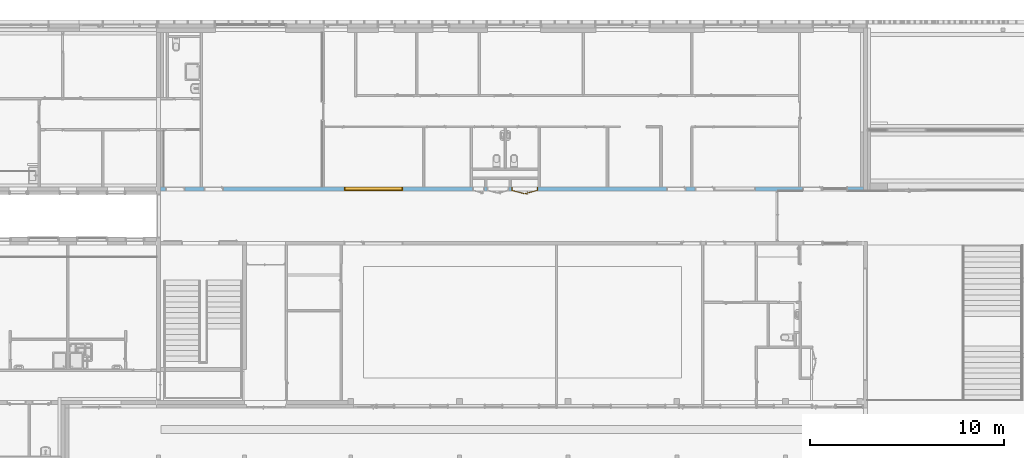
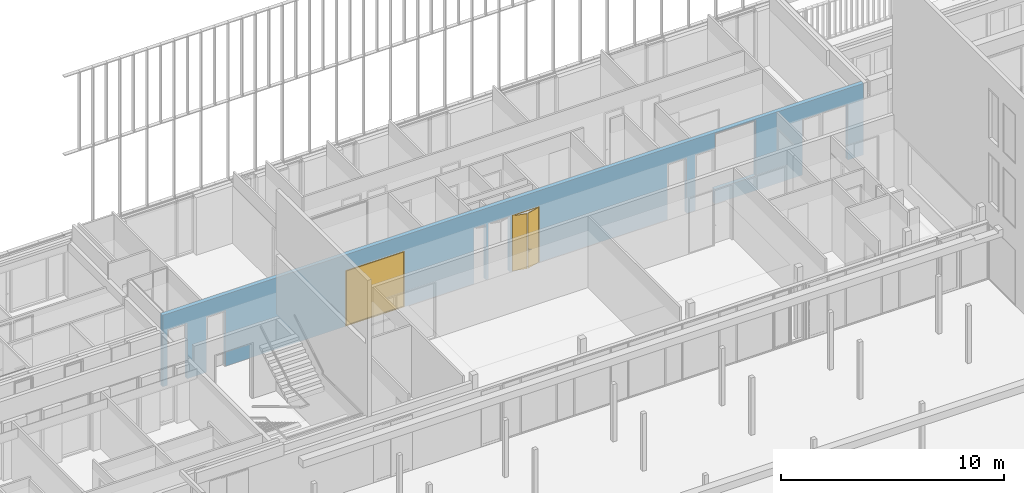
# One storey, part 212 of 240: 1 door, 1 window, 11 openings, plus 1 element that does not belong to this part.
"""IFC2X3 building model written with IfcOpenShell, lengths in centimetres."""

from ifc_helpers import new_model, entity, si_unit, converted_unit, derived_unit, direction, frame, frame_2d, origin, place, context, subcontext, project, spatial, polyline, rectangle, extrude, clip, bounded_halfspace, faceted_brep, source, transform, mapped, material, material_list, layer, layer_set, layer_usage, type_object, type_shapes, element, fill, save


model = new_model("IFC2X3")

# Units and contexts
model_context = context("Model", 3, precision=0.001, world=origin(), true_north=direction((6.12303176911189e-17, 1.0)))
body_context = subcontext(model_context, "Body", "Model", "MODEL_VIEW")
ifc_project = project(units=[si_unit("LENGTHUNIT", "METRE", prefix="CENTI"), si_unit("AREAUNIT", "SQUARE_METRE"), si_unit("VOLUMEUNIT", "CUBIC_METRE"), converted_unit("PLANEANGLEUNIT", "DEGREE", entity("IfcRatioMeasure", 0.0174532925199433), si_unit("PLANEANGLEUNIT", "RADIAN"), dimensions=[0, 0, 0, 0, 0, 0, 0]), si_unit("MASSUNIT", "GRAM", prefix="KILO"), derived_unit("MASSDENSITYUNIT", [(si_unit("MASSUNIT", "GRAM", prefix="KILO"), 1), (si_unit("LENGTHUNIT", "METRE"), -3)]), si_unit("TIMEUNIT", "SECOND"), si_unit("FREQUENCYUNIT", "HERTZ"), si_unit("THERMODYNAMICTEMPERATUREUNIT", "DEGREE_CELSIUS"), derived_unit("THERMALTRANSMITTANCEUNIT", [(si_unit("MASSUNIT", "GRAM", prefix="KILO"), 1), (si_unit("THERMODYNAMICTEMPERATUREUNIT", "KELVIN"), -1), (si_unit("TIMEUNIT", "SECOND"), -3)]), derived_unit("VOLUMETRICFLOWRATEUNIT", [(si_unit("LENGTHUNIT", "METRE"), 3), (si_unit("TIMEUNIT", "SECOND"), -1)]), si_unit("ELECTRICCURRENTUNIT", "AMPERE"), si_unit("ELECTRICVOLTAGEUNIT", "VOLT"), si_unit("POWERUNIT", "WATT"), si_unit("FORCEUNIT", "NEWTON", prefix="KILO"), si_unit("ILLUMINANCEUNIT", "LUX"), si_unit("LUMINOUSFLUXUNIT", "LUMEN"), si_unit("LUMINOUSINTENSITYUNIT", "CANDELA"), derived_unit("USERDEFINED", [(si_unit("MASSUNIT", "GRAM", prefix="KILO"), -1), (si_unit("LENGTHUNIT", "METRE"), -2), (si_unit("TIMEUNIT", "SECOND"), 3), (si_unit("LUMINOUSFLUXUNIT", "LUMEN"), 1)]), derived_unit("LINEARVELOCITYUNIT", [(si_unit("LENGTHUNIT", "METRE"), 1), (si_unit("TIMEUNIT", "SECOND"), -1)]), si_unit("PRESSUREUNIT", "PASCAL"), derived_unit("USERDEFINED", [(si_unit("LENGTHUNIT", "METRE"), -2), (si_unit("MASSUNIT", "GRAM", prefix="KILO"), 1), (si_unit("TIMEUNIT", "SECOND"), -2)])], contexts=[model_context])

# Site, building, storey
site_placement = place(None, frame((-2781.94577612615, 7442.24238424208, 0.0)))
site = spatial("IfcSite", under=ifc_project, at=site_placement, Name="Default", CompositionType="ELEMENT")
building_placement = place(site_placement, origin())
building = spatial("IfcBuilding", under=site, at=building_placement, CompositionType="ELEMENT")
storey_placement = place(building_placement, origin())
storey = spatial("IfcBuildingStorey", under=building, at=storey_placement, Name="N00 - COO", CompositionType="ELEMENT", Elevation=0.0)

# Wall, openings, window, door
ifc_material_1 = material(Name="01 - Maçonnerie")
ifc_layer = layer(ifc_material_1, 20.0)
ifc_layer_set = layer_set([ifc_layer], Name="Mur de base:04 - Structure - béton - 20cm")
ifc_layer_usage = layer_usage(ifc_layer_set, "AXIS2", "NEGATIVE", 10.0)
wall_type = type_object("IfcWallType", Name="Mur de base:04 - Structure - béton - 20cm", PredefinedType="STANDARD", material=ifc_layer_set)
wall_placement = place(building_placement, frame((-8409.49987766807, -820.048500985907, 0.0)))
wall = element("IfcWallStandardCase", 1, at=wall_placement, inside=storey, type_object=wall_type, material=ifc_layer_usage, Name="Mur de base:04 - Structure - béton - 20cm", ObjectType="Mur de base:04 - Structure - béton - 20cm", context=body_context, shape_type="Clipping", body=[
    clip(extrude(rectangle(XDim=3621.50000006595, YDim=20.0, at=frame_2d((1810.75000003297, -1.59872115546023e-14), x_axis=(-1.0, 0.0))), origin(), (0.0, 0.0, 1.0), 391.0), bounded_halfspace(frame((0.0, -10.0, 391.0), z_axis=(0.0, 0.0, -1.0), x_axis=(0.0, 1.0, 0.0)), True, frame((0.0, -10.0, 391.0), z_axis=(0.0, 0.0, -1.0), x_axis=(0.0, 1.0, 0.0)), polyline([(0.0, 0.0), (20.0, 0.0), (20.0, 205.0), (20.0, 215.0), (20.0, 833.250000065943), (20.0, 843.250000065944), (20.0, 1351.0), (20.0, 1361.0), (20.0, 1603.69999798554), (20.0, 1671.0), (20.0, 1680.69999798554), (20.0, 1799.69999798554), (20.0, 1946.0), (20.0, 1956.0), (20.0, 2296.0), (20.0, 2306.0), (20.0, 2573.0), (20.0, 2583.0), (20.0, 2733.0), (20.0, 2743.0), (20.0, 3287.0), (20.0, 3297.0), (20.0, 3621.50000006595), (0.0, 3621.50000006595), (0.0, 3182.0), (0.0, 3172.0), (0.0, 0.0)]))),
])
opening_1_placement = place(wall_placement, origin())
element("IfcOpeningElement", 2, at=opening_1_placement, cuts=wall, Name="Mur de base:04 - Structure - béton - 20cm", ObjectType="Opening", context=body_context, shape_type="SweptSolid", body=[
    extrude(rectangle(XDim=306.0, YDim=133.000000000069, at=frame_2d((0.0, 4.33431068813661e-13), x_axis=(1.0, 0.0))), frame((3473.50000006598, -25.24, 153.0), z_axis=(0.0, 1.0, 0.0), x_axis=(0.0, 0.0, 1.0)), (0.0, 0.0, 1.0), 50.48),
])
opening_2_placement = place(wall_placement, frame((225.0, -10.0, 0.0)))
element("IfcOpeningElement", 3, at=opening_2_placement, cuts=wall, Name="Int. Simple:PV (0.93m x 3.00m):1", ObjectType="Opening", context=body_context, shape_type="SweptSolid", body=[
    extrude(rectangle(XDim=304.500000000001, YDim=99.9999999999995, at=frame_2d((152.250000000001, 50.0), x_axis=(1.0, 0.0))), frame((0.0, 0.0, 0.0), z_axis=(0.0, 1.0, 0.0), x_axis=(0.0, 0.0, 1.0)), (0.0, 0.0, 1.0), 20.0),
])
opening_3_placement = place(wall_placement, frame((2608.0, -10.0, 0.0)))
element("IfcOpeningElement", 4, at=opening_3_placement, cuts=wall, Name="Int. Simple:PV (0.93m x 3.00m):1", ObjectType="Opening", context=body_context, shape_type="SweptSolid", body=[
    extrude(rectangle(XDim=304.500000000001, YDim=99.9999999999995, at=frame_2d((152.250000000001, 50.0), x_axis=(1.0, 0.0))), frame((0.0, 0.0, 0.0), z_axis=(0.0, 1.0, 0.0), x_axis=(0.0, 0.0, 1.0)), (0.0, 0.0, 1.0), 20.0),
])
opening_4_placement = place(wall_placement, frame((2753.0, -10.0, 0.0)))
element("IfcOpeningElement", 5, at=opening_4_placement, cuts=wall, Name="Int. Simple:PV (0.93m x 3.00m):1", ObjectType="Opening", context=body_context, shape_type="SweptSolid", body=[
    extrude(rectangle(XDim=304.500000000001, YDim=99.9999999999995, at=frame_2d((152.250000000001, 50.0), x_axis=(1.0, 0.0))), frame((0.0, 0.0, 0.0), z_axis=(0.0, 1.0, 0.0), x_axis=(0.0, 0.0, 1.0)), (0.0, 0.0, 1.0), 20.0),
])
opening_5_placement = place(wall_placement, frame((3307.0, -10.0, 0.0)))
element("IfcOpeningElement", 6, at=opening_5_placement, cuts=wall, Name="Int. Simple:PV (0.93m x 3.00m):1", ObjectType="Opening", context=body_context, shape_type="SweptSolid", body=[
    extrude(rectangle(XDim=304.500000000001, YDim=99.9999999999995, at=frame_2d((152.250000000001, 50.0), x_axis=(1.0, 0.0))), frame((0.0, 0.0, 0.0), z_axis=(0.0, 1.0, 0.0), x_axis=(0.0, 0.0, 1.0)), (0.0, 0.0, 1.0), 20.0),
])
opening_6_placement = place(wall_placement, frame((1944.50000006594, 10.0, 0.0)))
opening_6 = element("IfcOpeningElement", 7, at=opening_6_placement, cuts=wall, Name="Int. Double:PP Placard (1.26m x 2.04m):1", ObjectType="Opening", context=body_context, shape_type="SweptSolid", body=[
    extrude(rectangle(XDim=304.500000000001, YDim=137.0, at=frame_2d((152.250000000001, 68.5), x_axis=(1.0, 0.0))), frame((0.0, 0.0, 0.0), z_axis=(0.0, -1.0, 0.0), x_axis=(0.0, 0.0, 1.0)), (0.0, 0.0, 1.0), 20.0),
])
opening_7_placement = place(wall_placement, frame((1794.50000006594, 10.0, 0.0)))
element("IfcOpeningElement", 8, at=opening_7_placement, cuts=wall, Name="Int. Double:PP Placard (1.05m x 3.00m):1", ObjectType="Opening", context=body_context, shape_type="SweptSolid", body=[
    extrude(rectangle(XDim=304.500000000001, YDim=112.0, at=frame_2d((152.250000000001, 56.0000000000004), x_axis=(1.0, 0.0))), frame((0.0, 0.0, 0.0), z_axis=(0.0, -1.0, 0.0), x_axis=(0.0, 0.0, 1.0)), (0.0, 0.0, 1.0), 20.0),
])
opening_8_placement = place(wall_placement, frame((1669.50000006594, 10.0, 0.0)))
element("IfcOpeningElement", 9, at=opening_8_placement, cuts=wall, Name="Int. Simple:PP Placard (0.55m x 3.00m):1", ObjectType="Opening", context=body_context, shape_type="SweptSolid", body=[
    extrude(rectangle(XDim=304.500000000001, YDim=61.9999999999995, at=frame_2d((152.250000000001, 30.9999999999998), x_axis=(1.0, 0.0))), frame((0.0, 0.0, 0.0), z_axis=(0.0, -1.0, 0.0), x_axis=(0.0, 0.0, 1.0)), (0.0, 0.0, 1.0), 20.0),
])
opening_9_placement = place(wall_placement, frame((945.0, -10.0, 0.0)))
opening_9 = element("IfcOpeningElement", 10, at=opening_9_placement, cuts=wall, Name="châssis intérieur vitré:châssis intérieur vitré (h=306):1", ObjectType="Opening", context=body_context, shape_type="SweptSolid", body=[
    extrude(rectangle(XDim=306.0, YDim=304.999999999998, at=frame_2d((153.0, 152.499999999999), x_axis=(1.0, 0.0))), frame((0.0, 0.0, 0.0), z_axis=(0.0, 1.0, 0.0), x_axis=(0.0, 0.0, 1.0)), (0.0, 0.0, 1.0), 20.0),
])
opening_10_placement = place(wall_placement, frame((25.2999999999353, -10.0, 0.0)))
element("IfcOpeningElement", 11, at=opening_10_placement, cuts=wall, Name="Int. Simple:PV (0.93m x 3.00m):1", ObjectType="Opening", context=body_context, shape_type="SweptSolid", body=[
    extrude(rectangle(XDim=304.500000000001, YDim=99.9999999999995, at=frame_2d((152.250000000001, 50.0), x_axis=(1.0, 0.0))), frame((0.0, 0.0, 0.0), z_axis=(0.0, 1.0, 0.0), x_axis=(0.0, 0.0, 1.0)), (0.0, 0.0, 1.0), 20.0),
])
opening_11_placement = place(wall_placement, frame((2853.0, -10.0, 80.0)))
element("IfcOpeningElement", 12, at=opening_11_placement, cuts=wall, Name="châssis intérieur vitré:châssis intérieur vitré (h=306):1", ObjectType="Opening", context=body_context, shape_type="SweptSolid", body=[
    extrude(rectangle(XDim=306.0, YDim=212.0, at=frame_2d((153.0, 106.0), x_axis=(1.0, 0.0))), frame((0.0, 0.0, 0.0), z_axis=(0.0, 1.0, 0.0), x_axis=(0.0, 0.0, 1.0)), (0.0, 0.0, 1.0), 20.0),
])
ifc_material_2 = material(Name="Verre")
ifc_material_3 = material(Name="huisserie bois")
ifc_material_list_1 = material_list([ifc_material_2, ifc_material_3])
ifc_material_list_2 = material_list([ifc_material_2, ifc_material_3])
window_style = type_object("IfcWindowStyle", Name="châssis intérieur vitré (h=306)", ConstructionType="NOTDEFINED", OperationType="NOTDEFINED", ParameterTakesPrecedence=False, Sizeable=False, material=ifc_material_list_2)
shared_shape_1 = source(origin(), body_context, "Body", "Brep", [
    faceted_brep([(302.0, 5.0, 303.0), (302.0, 5.0, 3.0), (3.0, 5.0, 3.0), (3.0, 5.0, 303.0), (302.0, 2.0, 303.0), (302.0, 2.0, 3.0), (3.0, 2.0, 3.0), (3.0, 2.0, 303.0)], [[[0, 1, 2, 3]], [[1, 0, 4, 5]], [[2, 1, 5, 6]], [[3, 2, 6, 7]], [[4, 7, 6, 5]], [[0, 3, 7, 4]]]),
    faceted_brep([(302.0, 2.0, 303.0), (302.0, 0.0, 303.0), (302.0, 0.0, 3.0), (302.0, 2.0, 3.0), (300.0, 0.0, 5.0), (5.0, 0.0, 5.0), (5.0, 0.0, 301.0), (300.0, 0.0, 301.0), (3.0, 0.0, 303.0), (3.0, 0.0, 3.0), (3.0, 2.0, 3.0), (3.0, 2.0, 303.0), (300.0, 2.0, 301.0), (5.0, 2.0, 301.0), (5.0, 2.0, 5.0), (300.0, 2.0, 5.0)], [[[0, 1, 2, 3]], [[4, 5, 6, 7], [1, 8, 9, 2]], [[3, 2, 9, 10]], [[3, 10, 11, 0], [12, 13, 14, 15]], [[7, 12, 15, 4]], [[4, 15, 14, 5]], [[10, 9, 8, 11]], [[5, 14, 13, 6]], [[11, 8, 1, 0]], [[6, 13, 12, 7]]], outer=[[True], [False, True], [True], [True, False], [True], [True], [True], [True], [True], [True]]),
    faceted_brep([(300.0, 5.0, 301.0), (300.0, 20.0, 301.0), (300.0, 20.0, 5.0), (300.0, 5.0, 5.0), (305.0, 20.0, 0.0), (0.0, 20.0, 0.0), (0.0, 20.0, 306.0), (305.0, 20.0, 306.0), (5.0, 20.0, 301.0), (5.0, 20.0, 5.0), (5.0, 5.0, 5.0), (5.0, 5.0, 301.0), (302.0, 5.0, 303.0), (3.0, 5.0, 303.0), (3.0, 5.0, 3.0), (302.0, 5.0, 3.0), (302.0, 0.0, 303.0), (302.0, 0.0, 3.0), (3.0, 0.0, 3.0), (3.0, 0.0, 303.0), (305.0, 0.0, 306.0), (0.0, 0.0, 306.0), (0.0, 0.0, 0.0), (305.0, 0.0, 0.0)], [[[0, 1, 2, 3]], [[4, 5, 6, 7], [1, 8, 9, 2]], [[3, 2, 9, 10]], [[3, 10, 11, 0], [12, 13, 14, 15]], [[16, 12, 15, 17]], [[17, 15, 14, 18]], [[17, 18, 19, 16], [20, 21, 22, 23]], [[7, 20, 23, 4]], [[4, 23, 22, 5]], [[10, 9, 8, 11]], [[18, 14, 13, 19]], [[5, 22, 21, 6]], [[11, 8, 1, 0]], [[19, 13, 12, 16]], [[6, 21, 20, 7]]], outer=[[True], [True, False], [True], [False, True], [True], [True], [False, True], [True], [True], [True], [True], [True], [True], [True], [True]]),
])
type_shapes(window_style, [shared_shape_1])
window_placement = place(opening_9_placement, frame((6.60111254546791e-08, 0.0, 0.0)))
window = element("IfcWindow", 13, at=window_placement, inside=storey, type_object=window_style, material=ifc_material_list_1, Name="châssis intérieur vitré:châssis intérieur vitré (h=306)", ObjectType="châssis intérieur vitré:châssis intérieur vitré (h=306)", OverallHeight=306.0, OverallWidth=304.999999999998, context=body_context, shape_type="MappedRepresentation", body=[
    mapped(shared_shape_1, transform((0.0, 0.0, 0.0), scale=1.0)),
])
fill(opening_9, window)
ifc_material_4 = material(Name="Bois - Panneau de porte")
ifc_material_5 = material(Name="Finition Peinture - Blanc satiné")
ifc_material_6 = material(Name="Bois - Cadre de porte")
ifc_material_list_3 = material_list([ifc_material_4, ifc_material_5, ifc_material_6])
ifc_material_list_4 = material_list([ifc_material_4, ifc_material_5, ifc_material_6])
door_style = type_object("IfcDoorStyle", Name="PP Placard (1.26m x 2.04m)", ConstructionType="NOTDEFINED", OperationType="DOUBLE_DOOR_SINGLE_SWING", ParameterTakesPrecedence=False, Sizeable=False, material=ifc_material_list_4)
shared_shape_2 = source(origin(), body_context, "Body", "Brep", [
    faceted_brep([(67.3204548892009, -12.9595346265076, 301.0), (67.3204548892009, -12.9595346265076, 0.0), (4.53527618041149, 3.86370330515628, 0.0), (4.53527618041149, 3.86370330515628, 301.0), (66.2851787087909, -16.8232379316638, 301.0), (3.50000000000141, 0.0, 301.0), (3.50000000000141, 0.0, 0.0), (66.2851787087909, -16.8232379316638, 0.0)], [[[0, 1, 2, 3]], [[4, 5, 6, 7]], [[3, 5, 4, 0]], [[2, 6, 5, 3]], [[1, 7, 6, 2]], [[0, 4, 7, 1]]]),
    faceted_brep([(77.6397857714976, -15.4853373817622, 86.6003983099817), (78.5716374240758, -15.2356484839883, 87.0), (78.5716374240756, -15.2356484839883, 108.0), (77.6397857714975, -15.4853373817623, 108.399601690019), (76.6397857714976, -15.7532865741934, 108.535898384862), (75.6397857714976, -16.0212357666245, 108.399601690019), (74.7079341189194, -16.2709246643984, 108.0), (74.7079341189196, -16.2709246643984, 87.0), (75.6397857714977, -16.0212357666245, 86.6003983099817), (76.6397857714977, -15.7532865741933, 86.464101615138), (77.5103762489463, -15.0023744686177, 108.399601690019), (78.4422279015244, -14.7526855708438, 108.0), (78.4422279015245, -14.7526855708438, 87.0), (77.5103762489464, -15.0023744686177, 86.6003983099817), (76.5103762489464, -15.2703236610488, 86.464101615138), (75.5103762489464, -15.5382728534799, 86.6003983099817), (74.5785245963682, -15.7879617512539, 87.0), (74.5785245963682, -15.7879617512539, 108.0), (75.5103762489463, -15.53827285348, 108.399601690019), (76.5103762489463, -15.2703236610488, 108.535898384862)], [[[0, 1, 2, 3, 4, 5, 6, 7, 8, 9]], [[10, 11, 12, 13, 14, 15, 16, 17, 18, 19]], [[16, 15, 8, 7]], [[8, 15, 14, 9]], [[14, 13, 0, 9]], [[13, 12, 1, 0]], [[2, 1, 12, 11]], [[11, 10, 3, 2]], [[3, 10, 19, 4]], [[19, 18, 5, 4]], [[18, 17, 6, 5]], [[7, 6, 17, 16]]]),
    faceted_brep([(76.4751000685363, -11.1386711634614, 86.6003983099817), (77.4069517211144, -10.8889822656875, 87.0), (77.4069517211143, -10.8889822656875, 108.0), (76.4751000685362, -11.1386711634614, 108.399601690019), (75.4751000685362, -11.4066203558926, 108.535898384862), (74.4751000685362, -11.6745695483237, 108.399601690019), (73.5432484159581, -11.9242584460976, 108.0), (73.5432484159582, -11.9242584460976, 87.0), (74.4751000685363, -11.6745695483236, 86.6003983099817), (75.4751000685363, -11.4066203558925, 86.464101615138), (76.3456905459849, -10.6557082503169, 108.399601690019), (77.277542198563, -10.406019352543, 108.0), (77.2775421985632, -10.406019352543, 87.0), (76.345690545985, -10.6557082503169, 86.6003983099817), (75.3456905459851, -10.923657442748, 86.464101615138), (74.3456905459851, -11.1916066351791, 86.6003983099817), (73.4138388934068, -11.4412955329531, 87.0), (73.4138388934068, -11.4412955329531, 108.0), (74.3456905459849, -11.1916066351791, 108.399601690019), (75.3456905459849, -10.923657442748, 108.535898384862)], [[[0, 1, 2, 3, 4, 5, 6, 7, 8, 9]], [[10, 11, 12, 13, 14, 15, 16, 17, 18, 19]], [[11, 10, 3, 2]], [[3, 10, 19, 4]], [[19, 18, 5, 4]], [[18, 17, 6, 5]], [[7, 6, 17, 16]], [[16, 15, 8, 7]], [[8, 15, 14, 9]], [[14, 13, 0, 9]], [[13, 12, 1, 0]], [[2, 1, 12, 11]]]),
    faceted_brep([(76.4441569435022, -15.805705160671, 100.778044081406), (76.8354145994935, -15.7008679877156, 100.778044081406), (77.2193412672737, -15.5979951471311, 100.699999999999), (77.2193412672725, -15.5979951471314, 99.3000000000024), (76.8354145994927, -15.7008679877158, 99.2219559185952), (76.4441569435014, -15.8057051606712, 99.221955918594), (76.060230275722, -15.9085780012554, 99.2999999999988), (76.0602302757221, -15.9085780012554, 100.7), (76.7758895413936, -18.579454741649, 100.7), (77.1172048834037, -18.3175542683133, 100.778044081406), (79.0827837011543, -19.4523817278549, 100.778044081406), (79.1400107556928, -19.0176990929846, 100.778044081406), (77.4650375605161, -18.050652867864, 100.778044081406), (77.8063529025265, -17.7887523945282, 100.7), (77.8063529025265, -17.7887523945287, 99.3000000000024), (77.4650375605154, -18.0506528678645, 99.2219559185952), (79.1400107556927, -19.0176990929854, 99.2219559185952), (79.0827837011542, -19.4523817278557, 99.221955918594), (77.1172048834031, -18.3175542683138, 99.221955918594), (76.7758895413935, -18.579454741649, 99.2999999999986), (79.0266289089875, -19.8789197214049, 100.7), (79.1961655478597, -18.5911610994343, 100.7), (79.19616554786, -18.5911610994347, 99.3000000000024), (79.0266289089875, -19.878919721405, 99.2999999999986), (87.4921410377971, -17.6105925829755, 99.2999999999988), (87.3892681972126, -17.2266659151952, 99.221955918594), (87.2844310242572, -16.8354082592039, 99.2219559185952), (87.1815581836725, -16.4514815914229, 99.3000000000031), (87.1815581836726, -16.4514815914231, 100.7), (87.284431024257, -16.8354082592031, 100.778044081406), (87.3892681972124, -17.2266659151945, 100.778044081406), (87.4921410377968, -17.6105925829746, 100.699999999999), (82.8836177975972, -18.8454426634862, 100.7), (83.2646394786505, -18.1221825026, 100.78786867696), (83.188861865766, -17.5213213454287, 100.7), (83.1888618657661, -17.5213213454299, 99.3000000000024), (83.2646394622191, -18.1221825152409, 99.2121313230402), (82.883618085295, -18.8454425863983, 99.2999999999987)], [[[0, 1, 2, 3, 4, 5, 6, 7]], [[8, 9, 0, 7]], [[9, 10, 11, 12, 1, 0]], [[12, 13, 2, 1]], [[3, 2, 13, 14]], [[14, 15, 4, 3]], [[15, 16, 17, 18, 5, 4]], [[18, 19, 6, 5]], [[7, 6, 19, 8]], [[20, 10, 9, 8]], [[11, 21, 13, 12]], [[14, 13, 21, 22]], [[22, 16, 15, 14]], [[17, 23, 19, 18]], [[8, 19, 23, 20]], [[24, 25, 26, 27, 28, 29, 30, 31]], [[32, 30, 33]], [[31, 30, 32]], [[10, 20, 32]], [[33, 34, 11]], [[21, 11, 34]], [[34, 29, 28]], [[30, 29, 33]], [[29, 34, 33]], [[10, 32, 33]], [[10, 33, 11]], [[22, 21, 34, 28, 27, 35]], [[35, 26, 36]], [[37, 36, 25]], [[22, 35, 16]], [[35, 27, 26]], [[24, 37, 25]], [[23, 17, 37]], [[37, 17, 36]], [[17, 16, 36]], [[16, 35, 36]], [[25, 36, 26]], [[20, 23, 37, 24, 31, 32]]]),
    faceted_brep([(75.1500617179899, -10.9760760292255, 100.778044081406), (74.7661350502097, -11.07894886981, 100.7), (74.7661350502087, -11.0789488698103, 99.2999999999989), (75.150061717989, -10.9760760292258, 99.221955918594), (75.5413193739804, -10.8712388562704, 99.2219559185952), (75.9252460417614, -10.7683660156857, 99.3000000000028), (75.9252460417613, -10.7683660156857, 100.7), (75.5413193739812, -10.8712388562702, 100.778044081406), (75.3432861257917, -8.59646204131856, 99.3000000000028), (75.3432861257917, -8.59646204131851, 100.7), (74.9167481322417, -8.54030724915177, 100.778044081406), (75.8935176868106, -6.8484927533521, 100.778044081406), (75.6266162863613, -6.50066007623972, 100.778044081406), (74.4820654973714, -8.48308019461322, 100.778044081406), (74.0555275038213, -8.42692540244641, 100.7), (74.0555275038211, -8.42692540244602, 99.2999999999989), (74.4820654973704, -8.48308019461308, 99.221955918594), (75.6266162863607, -6.50066007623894, 99.221955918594), (75.89351768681, -6.84849275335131, 99.2219559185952), (74.9167481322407, -8.54030724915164, 99.2219559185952), (76.1554181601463, -7.1898080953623, 99.3000000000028), (76.1554181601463, -7.18980809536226, 100.7), (75.3647158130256, -6.15934473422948, 100.7), (75.3647158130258, -6.15934473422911, 99.2999999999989), (84.1301502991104, -5.05298505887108, 99.3000000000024), (84.027277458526, -4.66905839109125, 99.2219559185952), (83.9224402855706, -4.27780073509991, 99.221955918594), (83.8195674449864, -3.89387406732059, 99.2999999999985), (83.8195674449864, -3.89387406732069, 100.7), (83.9224402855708, -4.27780073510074, 100.778044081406), (84.0272774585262, -4.66905839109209, 100.778044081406), (84.1301502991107, -5.05298505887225, 100.7), (80.1427830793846, -6.12139688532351, 99.3000000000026), (80.1427842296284, -6.12139657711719, 100.7), (79.9079789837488, -5.56314674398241, 100.78786867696), (79.2217046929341, -5.12586767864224, 100.7), (79.2217045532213, -5.12586771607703, 99.2999999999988), (79.9079790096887, -5.56314674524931, 99.2121313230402)], [[[0, 1, 2, 3, 4, 5, 6, 7]], [[6, 5, 8, 9]], [[9, 10, 7, 6]], [[10, 11, 12, 13, 0, 7]], [[13, 14, 1, 0]], [[2, 1, 14, 15]], [[15, 16, 3, 2]], [[16, 17, 18, 19, 4, 3]], [[19, 8, 5, 4]], [[9, 8, 20, 21]], [[21, 11, 10, 9]], [[12, 22, 14, 13]], [[15, 14, 22, 23]], [[23, 17, 16, 15]], [[18, 20, 8, 19]], [[24, 25, 26, 27, 28, 29, 30, 31]], [[21, 20, 32, 24, 31, 33]], [[33, 30, 34]], [[35, 34, 29]], [[21, 33, 11]], [[33, 31, 30]], [[28, 35, 29]], [[22, 12, 35]], [[35, 12, 34]], [[12, 11, 34]], [[11, 33, 34]], [[29, 34, 30]], [[22, 35, 28, 27, 36, 23]], [[36, 26, 37]], [[27, 26, 36]], [[17, 23, 36]], [[37, 32, 18]], [[20, 18, 32]], [[32, 25, 24]], [[26, 25, 37]], [[25, 32, 37]], [[17, 36, 37]], [[17, 37, 18]]]),
    faceted_brep([(69.6795451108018, -12.9595346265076, 301.0), (132.464723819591, 3.86370330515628, 301.0), (132.464723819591, 3.86370330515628, 0.0), (69.6795451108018, -12.9595346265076, 0.0), (70.7148212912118, -16.8232379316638, 301.0), (70.7148212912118, -16.8232379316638, 0.0), (133.500000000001, 0.0, 0.0), (133.500000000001, 0.0, 301.0)], [[[0, 1, 2, 3]], [[4, 5, 6, 7]], [[1, 0, 4, 7]], [[2, 1, 7, 6]], [[3, 2, 6, 5]], [[0, 3, 5, 4]]]),
    faceted_brep([(0.0, 0.0, 0.0), (0.0, 20.0, 0.0), (5.0, 20.0, 0.0), (5.0, 4.0, 0.0), (3.50000000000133, 4.0, 0.0), (3.50000000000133, 0.0, 0.0), (0.0, 0.0, 304.500000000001), (0.0, 20.0, 304.500000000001), (137.0, 20.0, 304.500000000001), (137.0, 20.0, 0.0), (132.0, 20.0, 0.0), (132.0, 20.0, 299.5), (5.0, 20.0, 299.5), (5.0, 4.0, 299.5), (132.0, 4.0, 299.5), (132.0, 4.0, 0.0), (133.499999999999, 4.0, 0.0), (133.499999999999, 4.0, 301.0), (3.50000000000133, 4.0, 301.0), (3.50000000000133, 0.0, 301.0), (133.499999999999, 0.0, 301.0), (133.499999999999, 0.0, 0.0), (137.0, 0.0, 0.0), (137.0, 0.0, 304.500000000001)], [[[0, 1, 2, 3, 4, 5]], [[1, 0, 6, 7]], [[2, 1, 7, 8, 9, 10, 11, 12]], [[3, 2, 12, 13]], [[4, 3, 13, 14, 15, 16, 17, 18]], [[5, 4, 18, 19]], [[0, 5, 19, 20, 21, 22, 23, 6]], [[8, 23, 22, 9]], [[22, 21, 16, 15, 10, 9]], [[14, 11, 10, 15]], [[20, 17, 16, 21]], [[7, 6, 23, 8]], [[13, 12, 11, 14]], [[19, 18, 17, 20]]]),
    faceted_brep([(1.50000000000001, 20.0, 0.0), (-1.49999999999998, 20.0, 0.0), (-1.49999999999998, 20.5000000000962, 0.0), (1.50000000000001, 20.5000000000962, 0.0), (1.50000000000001, 20.0, 303.0), (135.5, 20.0, 303.0), (135.5, 20.0, 0.0), (138.5, 20.0, 0.0), (138.5, 20.0, 306.0), (-1.5, 20.0, 306.0), (-1.5, 20.5000000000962, 306.0), (138.5, 20.5000000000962, 306.0), (138.5, 20.5000000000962, 0.0), (135.5, 20.5000000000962, 0.0), (135.5, 20.5000000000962, 303.0), (1.50000000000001, 20.5000000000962, 303.0)], [[[0, 1, 2, 3]], [[1, 0, 4, 5, 6, 7, 8, 9]], [[2, 1, 9, 10]], [[3, 2, 10, 11, 12, 13, 14, 15]], [[0, 3, 15, 4]], [[5, 14, 13, 6]], [[6, 13, 12, 7]], [[11, 8, 7, 12]], [[10, 9, 8, 11]], [[4, 15, 14, 5]]]),
    faceted_brep([(-1.49999999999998, -0.500000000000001, 0.0), (1.50000000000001, -0.500000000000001, 0.0), (1.50000000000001, -0.500000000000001, 303.0), (135.5, -0.500000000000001, 303.0), (135.5, -0.500000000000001, 0.0), (138.5, -0.500000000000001, 0.0), (138.5, -0.500000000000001, 306.0), (-1.5, -0.500000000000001, 306.0), (-1.49999999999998, 0.0, 0.0), (-1.5, 0.0, 306.0), (1.50000000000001, 0.0, 0.0), (138.5, 0.0, 306.0), (138.5, 0.0, 0.0), (135.5, 0.0, 0.0), (135.5, 0.0, 303.0), (1.50000000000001, 0.0, 303.0)], [[[0, 1, 2, 3, 4, 5, 6, 7]], [[8, 0, 7, 9]], [[10, 8, 9, 11, 12, 13, 14, 15]], [[1, 10, 15, 2]], [[3, 14, 13, 4]], [[11, 6, 5, 12]], [[9, 7, 6, 11]], [[2, 15, 14, 3]], [[4, 13, 12, 5]], [[1, 0, 8, 10]]]),
])
type_shapes(door_style, [shared_shape_2])
door_placement = place(opening_6_placement, frame((-137.0, -20.0, 0.0)))
door = element("IfcDoor", 14, at=door_placement, inside=storey, type_object=door_style, material=ifc_material_list_3, Name="Int. Double:PP Placard (1.26m x 2.04m)", ObjectType="Int. Double:PP Placard (1.26m x 2.04m)", OverallHeight=304.500000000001, OverallWidth=137.0, context=body_context, shape_type="MappedRepresentation", body=[
    mapped(shared_shape_2, transform((0.0, 0.0, 0.0), scale=1.0)),
])
fill(opening_6, door)

save(model, "model.ifc")
